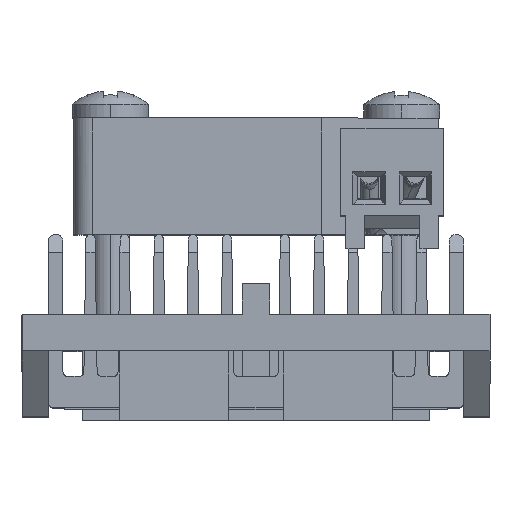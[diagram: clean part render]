
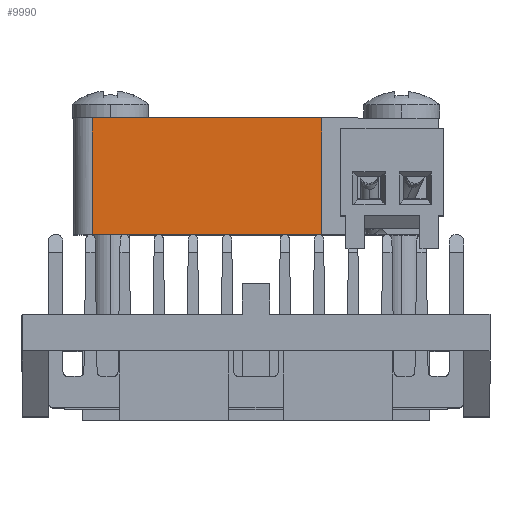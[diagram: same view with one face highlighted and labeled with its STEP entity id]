
A CAD part, top view. The second image highlights one B-rep face of the part: STEP entity #9990.
In plain terms, the highlighted planar face has unit normal (0, 0, 1).
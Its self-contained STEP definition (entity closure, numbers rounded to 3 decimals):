
#860 = CARTESIAN_POINT ( 'NONE',  ( -10.419, 12.553, 13.073 ) ) ;
#1222 = DIRECTION ( 'NONE',  ( -1., 0., 0. ) ) ;
#1469 = DIRECTION ( 'NONE',  ( 0., 0., -1. ) ) ;
#2199 = VERTEX_POINT ( 'NONE', #11785 ) ;
#2824 = VECTOR ( 'NONE', #12086, 1000. ) ;
#4464 = VERTEX_POINT ( 'NONE', #7736 ) ;
#5764 = EDGE_CURVE ( 'NONE', #6475, #2199, #16743, .T. ) ;
#6085 = ORIENTED_EDGE ( 'NONE', *, *, #19217, .F. ) ;
#6244 = CARTESIAN_POINT ( 'NONE',  ( 2.181, 12.653, 13.073 ) ) ;
#6399 = VECTOR ( 'NONE', #11128, 1000. ) ;
#6475 = VERTEX_POINT ( 'NONE', #860 ) ;
#7362 = CARTESIAN_POINT ( 'NONE',  ( 2.181, 6.153, 13.073 ) ) ;
#7736 = CARTESIAN_POINT ( 'NONE',  ( -10.419, 6.153, 13.073 ) ) ;
#7799 = DIRECTION ( 'NONE',  ( 0., -1., 0. ) ) ;
#8241 = DIRECTION ( 'NONE',  ( 0., -1., 0. ) ) ;
#9439 = VERTEX_POINT ( 'NONE', #7362 ) ;
#9990 = ADVANCED_FACE ( 'NONE', ( #10818 ), #17246, .F. ) ;
#10379 = VECTOR ( 'NONE', #1222, 1000. ) ;
#10818 = FACE_OUTER_BOUND ( 'NONE', #11207, .T. ) ;
#11128 = DIRECTION ( 'NONE',  ( 0., 1., 0. ) ) ;
#11207 = EDGE_LOOP ( 'NONE', ( #15305, #13389, #17518, #6085 ) ) ;
#11785 = CARTESIAN_POINT ( 'NONE',  ( 2.181, 12.553, 13.073 ) ) ;
#12086 = DIRECTION ( 'NONE',  ( 1., 0., 0. ) ) ;
#13389 = ORIENTED_EDGE ( 'NONE', *, *, #20145, .F. ) ;
#13558 = AXIS2_PLACEMENT_3D ( 'NONE', #15702, #1469, #7799 ) ;
#13638 = CARTESIAN_POINT ( 'NONE',  ( 8.581, 12.553, 13.073 ) ) ;
#14462 = LINE ( 'NONE', #14555, #6399 ) ;
#14555 = CARTESIAN_POINT ( 'NONE',  ( -10.419, 12.653, 13.073 ) ) ;
#15305 = ORIENTED_EDGE ( 'NONE', *, *, #5764, .F. ) ;
#15467 = LINE ( 'NONE', #16701, #10379 ) ;
#15702 = CARTESIAN_POINT ( 'NONE',  ( 8.581, 12.653, 13.073 ) ) ;
#16701 = CARTESIAN_POINT ( 'NONE',  ( -1.419, 6.153, 13.073 ) ) ;
#16743 = LINE ( 'NONE', #13638, #2824 ) ;
#17246 = PLANE ( 'NONE',  #13558 ) ;
#17518 = ORIENTED_EDGE ( 'NONE', *, *, #19835, .F. ) ;
#17681 = LINE ( 'NONE', #6244, #18596 ) ;
#18596 = VECTOR ( 'NONE', #8241, 1000. ) ;
#19217 = EDGE_CURVE ( 'NONE', #2199, #9439, #17681, .T. ) ;
#19835 = EDGE_CURVE ( 'NONE', #9439, #4464, #15467, .T. ) ;
#20145 = EDGE_CURVE ( 'NONE', #4464, #6475, #14462, .T. ) ;
